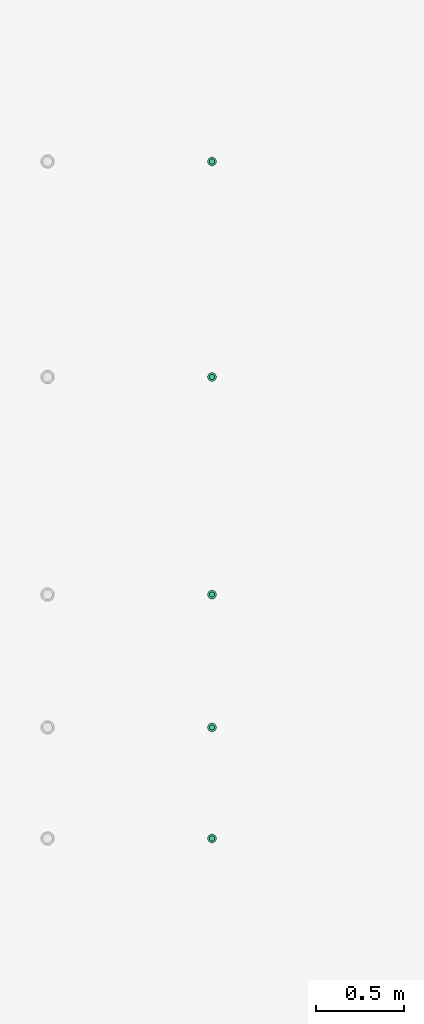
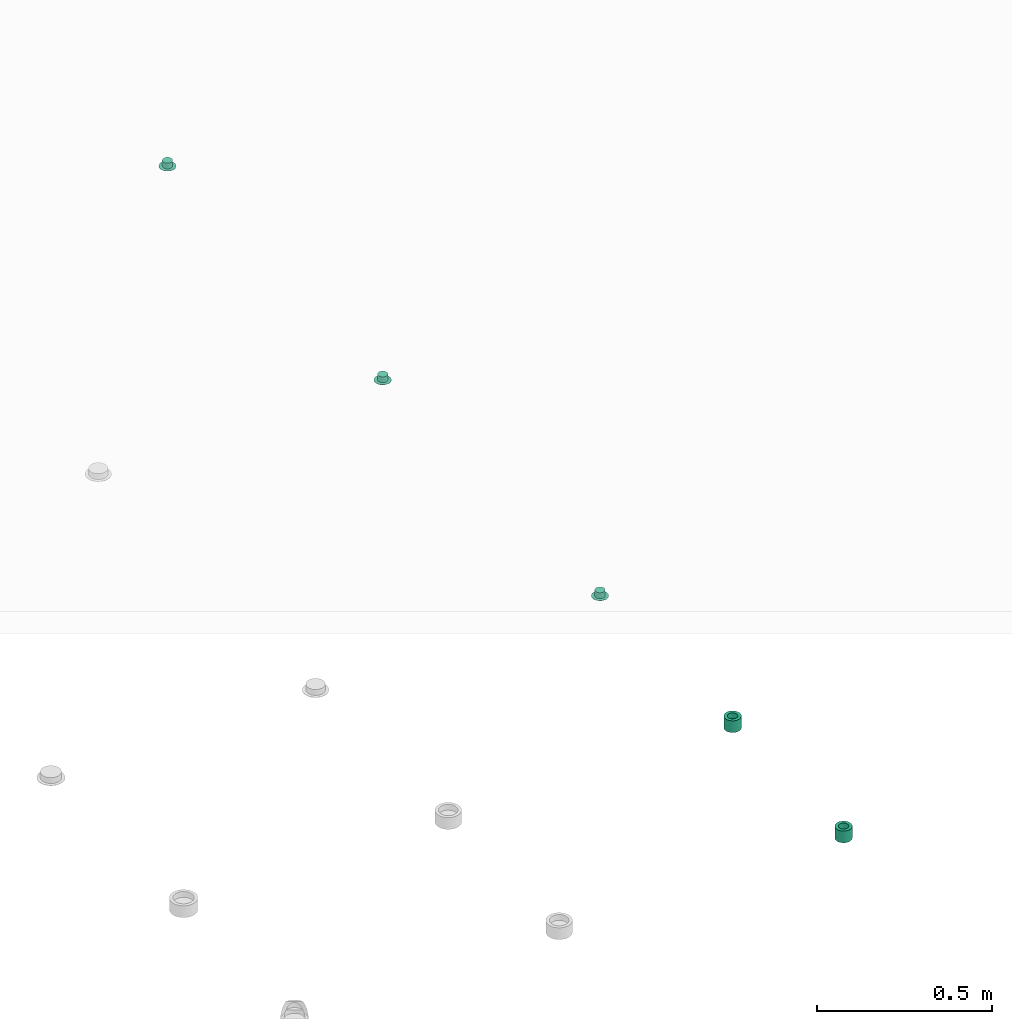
# One storey, part 26 of 197: 5 flow terminals.
"""IFC2X3 building model written with IfcOpenShell, lengths in metres."""

from ifc_helpers import new_model, entity, si_unit, converted_unit, direction, frame, frame_2d, origin, place, context, subcontext, project, spatial, circle, hollow_circle, extrude, source, transform, mapped, material, type_object, type_shapes, element, save


model = new_model("IFC2X3")

# Units and contexts
model_context = context("Model", 3, precision=1e-05, world=origin(), true_north=direction((6.123031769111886e-17, 1.0)))
body_context = subcontext(model_context, "Body", "Model", "MODEL_VIEW")
ifc_project = project(units=[si_unit("LENGTHUNIT", "METRE"), converted_unit("PLANEANGLEUNIT", "DEGREE", entity("IfcPlaneAngleMeasure", 0.017453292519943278), si_unit("PLANEANGLEUNIT", "RADIAN"), dimensions=[0, 0, 0, 0, 0, 0, 0]), si_unit("AREAUNIT", "SQUARE_METRE")], contexts=[model_context])

# Site, building, storey
site_placement = place(None, origin())
site = spatial("IfcSite", under=ifc_project, at=site_placement, Name="Default", CompositionType="ELEMENT")
building_placement = place(site_placement, origin())
building = spatial("IfcBuilding", under=site, at=building_placement, CompositionType="ELEMENT")
storey_placement = place(building_placement, origin())
storey = spatial("IfcBuildingStorey", under=building, at=storey_placement, Name="Niveau 0", CompositionType="ELEMENT", Elevation=0.0)

# Flow terminals
ifc_material = material(Name="<Unnamed>")
light_fixture_type_1 = type_object("IfcLightFixtureType", Name="Spot encastré_saillie:ENCASTRE - Ø50", PredefinedType="NOTDEFINED", material=ifc_material)
shared_shape_1 = source(origin(), body_context, "Body", "SweptSolid", [
    extrude(hollow_circle(Radius=0.024999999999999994, WallThickness=0.009999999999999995, at=frame_2d((5.068365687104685e-19, -4.5939729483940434e-17), x_axis=(1.0, 0.0))), frame((0.0, 0.0, 1.499), z_axis=(0.0, 0.0, 1.0), x_axis=(-1.0, 0.0, 0.0)), (0.0, 0.0, 1.0), 0.0010000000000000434),
    extrude(circle(Radius=0.015, at=frame_2d((-5.068365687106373e-19, -2.4233168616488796e-17), x_axis=(1.0, 0.0))), frame((0.0, 0.0, 1.5000000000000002)), (0.0, 0.0, 1.0), 0.020000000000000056),
])
type_shapes(light_fixture_type_1, [shared_shape_1])
flow_terminal_1_placement = place(storey_placement, frame((-533.8007105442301, 27.439355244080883, 0.0)))
element("IfcFlowTerminal", 1, at=flow_terminal_1_placement, inside=storey, type_object=light_fixture_type_1, material=ifc_material, Name="Spot encastré_saillie:ENCASTRE - Ø50", ObjectType="Spot encastré_saillie:ENCASTRE - Ø50", context=body_context, shape_type="MappedRepresentation", body=[
    mapped(shared_shape_1, transform((0.0, 0.0, 0.0), scale=1.0)),
])
light_fixture_type_2 = type_object("IfcLightFixtureType", Name="Spot encastré_saillie:ENCASTRE DALI - Ø50", PredefinedType="NOTDEFINED", material=ifc_material)
shared_shape_2 = source(origin(), body_context, "Body", "SweptSolid", [
    extrude(hollow_circle(Radius=0.024999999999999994, WallThickness=0.009999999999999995, at=frame_2d((5.068365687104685e-19, -4.5939729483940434e-17), x_axis=(1.0, 0.0))), frame((0.0, 0.0, 1.499), z_axis=(0.0, 0.0, 1.0), x_axis=(-1.0, 0.0, 0.0)), (0.0, 0.0, 1.0), 0.0010000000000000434),
    extrude(circle(Radius=0.015, at=frame_2d((-5.068365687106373e-19, -2.4233168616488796e-17), x_axis=(1.0, 0.0))), frame((0.0, 0.0, 1.5000000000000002)), (0.0, 0.0, 1.0), 0.020000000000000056),
])
type_shapes(light_fixture_type_2, [shared_shape_2])
flow_terminal_2_placement = place(storey_placement, frame((-533.8007105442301, 26.211355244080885, 0.0)))
element("IfcFlowTerminal", 2, at=flow_terminal_2_placement, inside=storey, type_object=light_fixture_type_2, material=ifc_material, Name="Spot encastré_saillie:ENCASTRE DALI - Ø50", ObjectType="Spot encastré_saillie:ENCASTRE DALI - Ø50", context=body_context, shape_type="MappedRepresentation", body=[
    mapped(shared_shape_2, transform((0.0, 0.0, 0.0), scale=1.0)),
])
light_fixture_type_3 = type_object("IfcLightFixtureType", Name="Spot encastré_saillie:ENCASTRE ETANCHE - Ø50", PredefinedType="NOTDEFINED", material=ifc_material)
shared_shape_3 = source(origin(), body_context, "Body", "SweptSolid", [
    extrude(hollow_circle(Radius=0.024999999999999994, WallThickness=0.009999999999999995, at=frame_2d((5.068365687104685e-19, -4.5939729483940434e-17), x_axis=(1.0, 0.0))), frame((0.0, 0.0, 1.499), z_axis=(0.0, 0.0, 1.0), x_axis=(-1.0, 0.0, 0.0)), (0.0, 0.0, 1.0), 0.0010000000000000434),
    extrude(circle(Radius=0.015, at=frame_2d((-5.068365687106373e-19, -2.4233168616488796e-17), x_axis=(1.0, 0.0))), frame((0.0, 0.0, 1.5000000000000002)), (0.0, 0.0, 1.0), 0.020000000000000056),
])
type_shapes(light_fixture_type_3, [shared_shape_3])
flow_terminal_3_placement = place(storey_placement, frame((-533.8007105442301, 24.971355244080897, 0.0)))
element("IfcFlowTerminal", 3, at=flow_terminal_3_placement, inside=storey, type_object=light_fixture_type_3, material=ifc_material, Name="Spot encastré_saillie:ENCASTRE ETANCHE - Ø50", ObjectType="Spot encastré_saillie:ENCASTRE ETANCHE - Ø50", context=body_context, shape_type="MappedRepresentation", body=[
    mapped(shared_shape_3, transform((0.0, 0.0, 0.0), scale=1.0)),
])
light_fixture_type_4 = type_object("IfcLightFixtureType", Name="Spot encastré_saillie:SAILLIE - Ø50", PredefinedType="NOTDEFINED", material=ifc_material)
shared_shape_4 = source(origin(), body_context, "Body", "SweptSolid", [
    extrude(hollow_circle(Radius=0.024999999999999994, WallThickness=0.009999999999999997, at=frame_2d((-5.068365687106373e-19, -3.483749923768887e-17), x_axis=(1.0, 0.0))), frame((0.0, 0.0, 1.5000000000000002)), (0.0, 0.0, 1.0), 0.04000000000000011),
    extrude(hollow_circle(Radius=0.024999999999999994, WallThickness=0.009999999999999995, at=frame_2d((5.068365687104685e-19, -4.5939729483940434e-17), x_axis=(1.0, 0.0))), frame((0.0, 0.0, 1.499), z_axis=(0.0, 0.0, 1.0), x_axis=(-1.0, 0.0, 0.0)), (0.0, 0.0, 1.0), 0.0010000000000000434),
    extrude(circle(Radius=0.015, at=frame_2d((-5.068365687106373e-19, -2.4233168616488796e-17), x_axis=(1.0, 0.0))), frame((0.0, 0.0, 1.5000000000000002)), (0.0, 0.0, 1.0), 0.020000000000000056),
])
type_shapes(light_fixture_type_4, [shared_shape_4])
flow_terminal_4_placement = place(storey_placement, frame((-533.8007105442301, 24.21435524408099, 0.0)))
element("IfcFlowTerminal", 4, at=flow_terminal_4_placement, inside=storey, type_object=light_fixture_type_4, material=ifc_material, Name="Spot encastré_saillie:SAILLIE - Ø50", ObjectType="Spot encastré_saillie:SAILLIE - Ø50", context=body_context, shape_type="MappedRepresentation", body=[
    mapped(shared_shape_4, transform((0.0, 0.0, 0.0), scale=1.0)),
])
light_fixture_type_5 = type_object("IfcLightFixtureType", Name="Spot encastré_saillie:SAILLIE DALI - Ø50", PredefinedType="NOTDEFINED", material=ifc_material)
shared_shape_5 = source(origin(), body_context, "Body", "SweptSolid", [
    extrude(hollow_circle(Radius=0.024999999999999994, WallThickness=0.009999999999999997, at=frame_2d((-5.068365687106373e-19, -3.483749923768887e-17), x_axis=(1.0, 0.0))), frame((0.0, 0.0, 1.5000000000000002)), (0.0, 0.0, 1.0), 0.04000000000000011),
    extrude(hollow_circle(Radius=0.024999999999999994, WallThickness=0.009999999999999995, at=frame_2d((5.068365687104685e-19, -4.5939729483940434e-17), x_axis=(1.0, 0.0))), frame((0.0, 0.0, 1.499), z_axis=(0.0, 0.0, 1.0), x_axis=(-1.0, 0.0, 0.0)), (0.0, 0.0, 1.0), 0.0010000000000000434),
    extrude(circle(Radius=0.015, at=frame_2d((-5.068365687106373e-19, -2.4233168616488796e-17), x_axis=(1.0, 0.0))), frame((0.0, 0.0, 1.5000000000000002)), (0.0, 0.0, 1.0), 0.020000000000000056),
])
type_shapes(light_fixture_type_5, [shared_shape_5])
flow_terminal_5_placement = place(storey_placement, frame((-533.8007105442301, 23.58135524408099, 0.0)))
element("IfcFlowTerminal", 5, at=flow_terminal_5_placement, inside=storey, type_object=light_fixture_type_5, material=ifc_material, Name="Spot encastré_saillie:SAILLIE DALI - Ø50", ObjectType="Spot encastré_saillie:SAILLIE DALI - Ø50", context=body_context, shape_type="MappedRepresentation", body=[
    mapped(shared_shape_5, transform((0.0, 0.0, 0.0), scale=1.0)),
])

save(model, "model.ifc")
